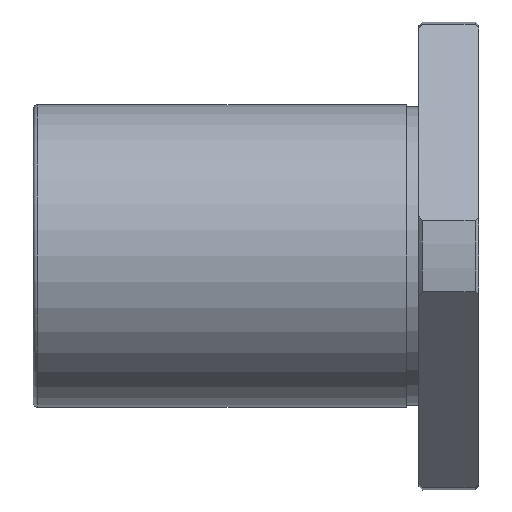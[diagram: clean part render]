
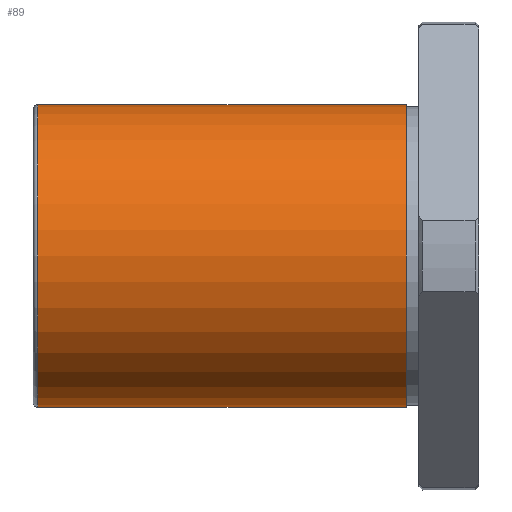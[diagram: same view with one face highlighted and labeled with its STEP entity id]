
A CAD part, front view. The second image highlights one B-rep face of the part: STEP entity #89.
In plain terms, the highlighted cylindrical face has radius 20 mm (diameter 40 mm), a full revolution.
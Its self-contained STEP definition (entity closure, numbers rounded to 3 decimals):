
#89=ADVANCED_FACE('',(#149,#150),#151,.T.);
#149=FACE_OUTER_BOUND('',#249,.T.);
#150=FACE_OUTER_BOUND('',#250,.T.);
#151=CYLINDRICAL_SURFACE('',#251,20.0);
#249=EDGE_LOOP('',(#419));
#250=EDGE_LOOP('',(#420));
#251=AXIS2_PLACEMENT_3D('',#421,#422,#423);
#419=ORIENTED_EDGE('',*,*,#612,.F.);
#420=ORIENTED_EDGE('',*,*,#613,.T.);
#421=CARTESIAN_POINT('',(-34.0,0.,0.));
#422=DIRECTION('',(-1.0,-0.0,0.));
#423=DIRECTION('',(0.0,1.0,0.0));
#612=EDGE_CURVE('',#724,#724,#725,.T.);
#613=EDGE_CURVE('',#726,#726,#727,.T.);
#724=VERTEX_POINT('',#987);
#725=CIRCLE('',#988,20.0);
#726=VERTEX_POINT('',#989);
#727=CIRCLE('',#990,20.0);
#987=CARTESIAN_POINT('',(-58.4,20.0,0.));
#988=AXIS2_PLACEMENT_3D('',#1131,#1132,#1133);
#989=CARTESIAN_POINT('',(-9.6,20.0,0.));
#990=AXIS2_PLACEMENT_3D('',#1134,#1135,#1136);
#1131=CARTESIAN_POINT('',(-58.4,0.,0.));
#1132=DIRECTION('',(-1.0,0.0,0.));
#1133=DIRECTION('',(0.0,1.0,0.0));
#1134=CARTESIAN_POINT('',(-9.6,0.,0.));
#1135=DIRECTION('',(-1.0,0.0,0.));
#1136=DIRECTION('',(0.0,1.0,0.0));
